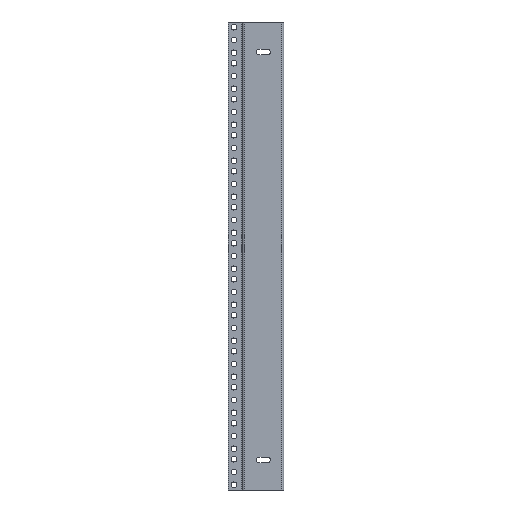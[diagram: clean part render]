
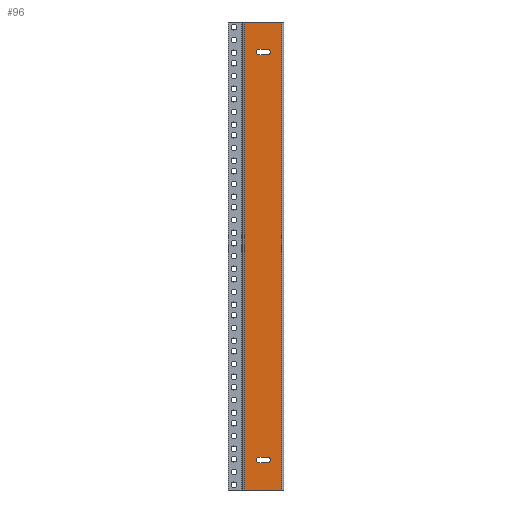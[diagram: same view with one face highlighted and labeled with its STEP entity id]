
A CAD part, front view. The second image highlights one B-rep face of the part: STEP entity #96.
In plain terms, the highlighted planar face has unit normal (0, -1, 0).
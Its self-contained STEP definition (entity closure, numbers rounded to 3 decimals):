
#96 = ADVANCED_FACE( '', ( #370, #371, #372 ), #373, .T. );
#370 = FACE_BOUND( '', #816, .T. );
#371 = FACE_BOUND( '', #817, .T. );
#372 = FACE_OUTER_BOUND( '', #818, .T. );
#373 = PLANE( '', #819 );
#816 = EDGE_LOOP( '', ( #1425, #1426, #1427, #1428 ) );
#817 = EDGE_LOOP( '', ( #1429, #1430, #1431, #1432 ) );
#818 = EDGE_LOOP( '', ( #1433, #1434, #1435, #1436 ) );
#819 = AXIS2_PLACEMENT_3D( '', #1437, #1438, #1439 );
#1425 = ORIENTED_EDGE( '', *, *, #1946, .T. );
#1426 = ORIENTED_EDGE( '', *, *, #1947, .T. );
#1427 = ORIENTED_EDGE( '', *, *, #1948, .T. );
#1428 = ORIENTED_EDGE( '', *, *, #1949, .T. );
#1429 = ORIENTED_EDGE( '', *, *, #1937, .F. );
#1430 = ORIENTED_EDGE( '', *, *, #1950, .F. );
#1431 = ORIENTED_EDGE( '', *, *, #1930, .F. );
#1432 = ORIENTED_EDGE( '', *, *, #1934, .F. );
#1433 = ORIENTED_EDGE( '', *, *, #1870, .T. );
#1434 = ORIENTED_EDGE( '', *, *, #1951, .T. );
#1435 = ORIENTED_EDGE( '', *, *, #1880, .T. );
#1436 = ORIENTED_EDGE( '', *, *, #1952, .T. );
#1437 = CARTESIAN_POINT( '', ( -25.4, 0., -288.925 ) );
#1438 = DIRECTION( '', ( 0., -1., 0. ) );
#1439 = DIRECTION( '', ( 0., 0., -1. ) );
#1870 = EDGE_CURVE( '', #2156, #2154, #2157, .T. );
#1880 = EDGE_CURVE( '', #2176, #2174, #2177, .T. );
#1930 = EDGE_CURVE( '', #2268, #2270, #2271, .T. );
#1934 = EDGE_CURVE( '', #2276, #2268, #2278, .T. );
#1937 = EDGE_CURVE( '', #2281, #2276, #2283, .T. );
#1946 = EDGE_CURVE( '', #2296, #2297, #2298, .T. );
#1947 = EDGE_CURVE( '', #2297, #2299, #2300, .T. );
#1948 = EDGE_CURVE( '', #2299, #2301, #2302, .T. );
#1949 = EDGE_CURVE( '', #2301, #2296, #2303, .T. );
#1950 = EDGE_CURVE( '', #2270, #2281, #2304, .T. );
#1951 = EDGE_CURVE( '', #2154, #2176, #2305, .T. );
#1952 = EDGE_CURVE( '', #2174, #2156, #2306, .T. );
#2154 = VERTEX_POINT( '', #2600 );
#2156 = VERTEX_POINT( '', #2602 );
#2157 = LINE( '', #2603, #2604 );
#2174 = VERTEX_POINT( '', #2626 );
#2176 = VERTEX_POINT( '', #2628 );
#2177 = LINE( '', #2629, #2630 );
#2268 = VERTEX_POINT( '', #2728 );
#2270 = VERTEX_POINT( '', #2731 );
#2271 = CIRCLE( '', #2732, 3.569 );
#2276 = VERTEX_POINT( '', #2738 );
#2278 = LINE( '', #2741, #2742 );
#2281 = VERTEX_POINT( '', #2746 );
#2283 = CIRCLE( '', #2749, 3.569 );
#2296 = VERTEX_POINT( '', #2767 );
#2297 = VERTEX_POINT( '', #2768 );
#2298 = CIRCLE( '', #2769, 3.569 );
#2299 = VERTEX_POINT( '', #2770 );
#2300 = LINE( '', #2771, #2772 );
#2301 = VERTEX_POINT( '', #2773 );
#2302 = CIRCLE( '', #2774, 3.569 );
#2303 = LINE( '', #2775, #2776 );
#2304 = LINE( '', #2777, #2778 );
#2305 = LINE( '', #2779, #2780 );
#2306 = LINE( '', #2781, #2782 );
#2600 = CARTESIAN_POINT( '', ( 23.216, 0., -288.925 ) );
#2602 = CARTESIAN_POINT( '', ( -23.216, 0., -288.925 ) );
#2603 = CARTESIAN_POINT( '', ( -25.4, 0., -288.925 ) );
#2604 = VECTOR( '', #3104, 1000. );
#2626 = CARTESIAN_POINT( '', ( -23.216, 0., 288.925 ) );
#2628 = CARTESIAN_POINT( '', ( 23.216, 0., 288.925 ) );
#2629 = CARTESIAN_POINT( '', ( 25.4, 0., 288.925 ) );
#2630 = VECTOR( '', #3122, 1000. );
#2728 = CARTESIAN_POINT( '', ( -5.169, 0., 255.321 ) );
#2731 = CARTESIAN_POINT( '', ( -5.169, 0., 248.183 ) );
#2732 = AXIS2_PLACEMENT_3D( '', #3254, #3255, #3256 );
#2738 = CARTESIAN_POINT( '', ( 5.169, 0., 255.321 ) );
#2741 = CARTESIAN_POINT( '', ( -5.169, 0., 255.321 ) );
#2742 = VECTOR( '', #3262, 1000. );
#2746 = CARTESIAN_POINT( '', ( 5.169, 0., 248.183 ) );
#2749 = AXIS2_PLACEMENT_3D( '', #3265, #3266, #3267 );
#2767 = CARTESIAN_POINT( '', ( 5.169, 0., -248.183 ) );
#2768 = CARTESIAN_POINT( '', ( 5.169, 0., -255.321 ) );
#2769 = AXIS2_PLACEMENT_3D( '', #3282, #3283, #3284 );
#2770 = CARTESIAN_POINT( '', ( -5.169, 0., -255.321 ) );
#2771 = CARTESIAN_POINT( '', ( -5.169, 0., -255.321 ) );
#2772 = VECTOR( '', #3285, 1000. );
#2773 = CARTESIAN_POINT( '', ( -5.169, 0., -248.183 ) );
#2774 = AXIS2_PLACEMENT_3D( '', #3286, #3287, #3288 );
#2775 = CARTESIAN_POINT( '', ( -5.169, 0., -248.183 ) );
#2776 = VECTOR( '', #3289, 1000. );
#2777 = CARTESIAN_POINT( '', ( -5.169, 0., 248.183 ) );
#2778 = VECTOR( '', #3290, 1000. );
#2779 = CARTESIAN_POINT( '', ( 23.216, 0., -288.925 ) );
#2780 = VECTOR( '', #3291, 1000. );
#2781 = CARTESIAN_POINT( '', ( -23.216, 0., 288.925 ) );
#2782 = VECTOR( '', #3292, 1000. );
#3104 = DIRECTION( '', ( 1., 0., 0. ) );
#3122 = DIRECTION( '', ( -1., 0., 0. ) );
#3254 = CARTESIAN_POINT( '', ( -5.169, 0., 251.752 ) );
#3255 = DIRECTION( '', ( 0., -1., 0. ) );
#3256 = DIRECTION( '', ( 1., 0., 0. ) );
#3262 = DIRECTION( '', ( -1., 0., 0. ) );
#3265 = CARTESIAN_POINT( '', ( 5.169, 0., 251.752 ) );
#3266 = DIRECTION( '', ( 0., -1., 0. ) );
#3267 = DIRECTION( '', ( -1., 0., 0. ) );
#3282 = CARTESIAN_POINT( '', ( 5.169, 0., -251.752 ) );
#3283 = DIRECTION( '', ( 0., 1., 0. ) );
#3284 = DIRECTION( '', ( -1., 0., 0. ) );
#3285 = DIRECTION( '', ( -1., 0., 0. ) );
#3286 = CARTESIAN_POINT( '', ( -5.169, 0., -251.752 ) );
#3287 = DIRECTION( '', ( 0., 1., 0. ) );
#3288 = DIRECTION( '', ( 1., 0., 0. ) );
#3289 = DIRECTION( '', ( 1., 0., 0. ) );
#3290 = DIRECTION( '', ( 1., 0., 0. ) );
#3291 = DIRECTION( '', ( 0., 0., 1. ) );
#3292 = DIRECTION( '', ( 0., 0., -1. ) );
